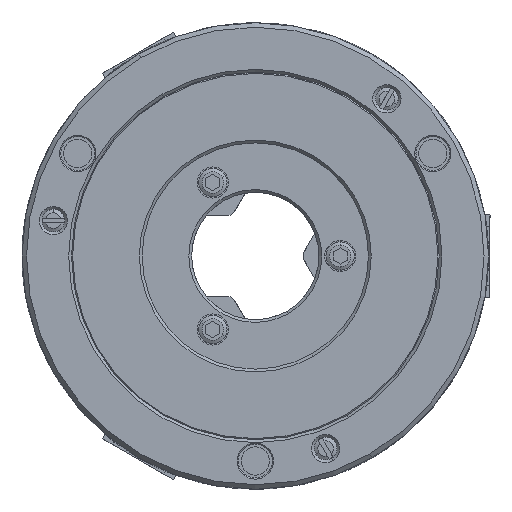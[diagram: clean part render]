
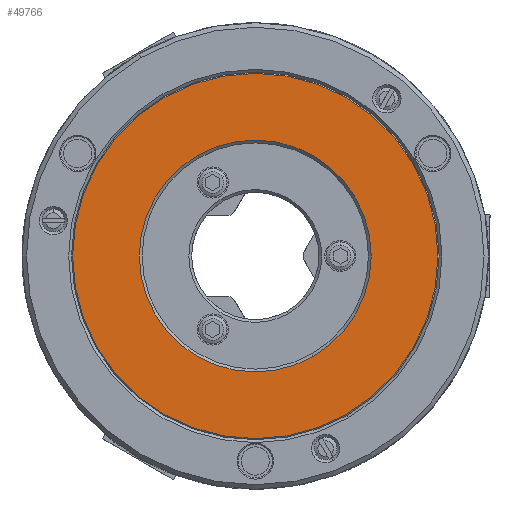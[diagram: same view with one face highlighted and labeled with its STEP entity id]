
A CAD part, left-side view. The second image highlights one B-rep face of the part: STEP entity #49766.
In plain terms, the highlighted planar face has unit normal (-1, 0, 0).
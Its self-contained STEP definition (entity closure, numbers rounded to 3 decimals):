
#350 = EDGE_CURVE ( 'NONE', #38015, #24791, #5590, .T. ) ;
#948 = DIRECTION ( 'NONE',  ( 0., -0.5, -0.866 ) ) ;
#1726 = FACE_OUTER_BOUND ( 'NONE', #30280, .T. ) ;
#3772 = EDGE_CURVE ( 'NONE', #55303, #37430, #26757, .T. ) ;
#5590 = CIRCLE ( 'NONE', #68496, 41. ) ;
#7082 = CARTESIAN_POINT ( 'NONE',  ( -60., 0., 0. ) ) ;
#8221 = AXIS2_PLACEMENT_3D ( 'NONE', #27768, #17062, #28585 ) ;
#10402 = ORIENTED_EDGE ( 'NONE', *, *, #52008, .T. ) ;
#15383 = DIRECTION ( 'NONE',  ( 1., 0., 0. ) ) ;
#17062 = DIRECTION ( 'NONE',  ( 1., 0., 0. ) ) ;
#17712 = EDGE_LOOP ( 'NONE', ( #10402, #34888 ) ) ;
#21952 = DIRECTION ( 'NONE',  ( 0., -0.5, -0.866 ) ) ;
#24791 = VERTEX_POINT ( 'NONE', #55432 ) ;
#26757 = CIRCLE ( 'NONE', #50453, 64.6 ) ;
#27768 = CARTESIAN_POINT ( 'NONE',  ( -60., 0., 0. ) ) ;
#27899 = DIRECTION ( 'NONE',  ( 1., 0., 0. ) ) ;
#28585 = DIRECTION ( 'NONE',  ( 0., -0.5, -0.866 ) ) ;
#30280 = EDGE_LOOP ( 'NONE', ( #57611, #71229 ) ) ;
#30392 = AXIS2_PLACEMENT_3D ( 'NONE', #59582, #73112, #41936 ) ;
#32147 = DIRECTION ( 'NONE',  ( 1., 0., 0. ) ) ;
#32208 = CIRCLE ( 'NONE', #46734, 64.6 ) ;
#34448 = DIRECTION ( 'NONE',  ( 0., -0.5, -0.866 ) ) ;
#34888 = ORIENTED_EDGE ( 'NONE', *, *, #350, .T. ) ;
#36088 = CARTESIAN_POINT ( 'NONE',  ( -60., 0., 0. ) ) ;
#37430 = VERTEX_POINT ( 'NONE', #59852 ) ;
#38015 = VERTEX_POINT ( 'NONE', #73803 ) ;
#40034 = CARTESIAN_POINT ( 'NONE',  ( -60., 0., 0. ) ) ;
#41936 = DIRECTION ( 'NONE',  ( 0., -0.5, -0.866 ) ) ;
#43661 = CIRCLE ( 'NONE', #8221, 41. ) ;
#46734 = AXIS2_PLACEMENT_3D ( 'NONE', #40034, #15383, #21952 ) ;
#49766 = ADVANCED_FACE ( 'NONE', ( #1726, #51822 ), #78048, .F. ) ;
#50453 = AXIS2_PLACEMENT_3D ( 'NONE', #36088, #27899, #34448 ) ;
#51822 = FACE_BOUND ( 'NONE', #17712, .T. ) ;
#52008 = EDGE_CURVE ( 'NONE', #24791, #38015, #43661, .T. ) ;
#55303 = VERTEX_POINT ( 'NONE', #72368 ) ;
#55432 = CARTESIAN_POINT ( 'NONE',  ( -60., 20.5, 35.507 ) ) ;
#57476 = EDGE_CURVE ( 'NONE', #37430, #55303, #32208, .T. ) ;
#57611 = ORIENTED_EDGE ( 'NONE', *, *, #3772, .F. ) ;
#59582 = CARTESIAN_POINT ( 'NONE',  ( -60., 40., 0. ) ) ;
#59852 = CARTESIAN_POINT ( 'NONE',  ( -60., 32.3, 55.945 ) ) ;
#68496 = AXIS2_PLACEMENT_3D ( 'NONE', #7082, #32147, #948 ) ;
#71229 = ORIENTED_EDGE ( 'NONE', *, *, #57476, .F. ) ;
#72368 = CARTESIAN_POINT ( 'NONE',  ( -60., -32.3, -55.945 ) ) ;
#73112 = DIRECTION ( 'NONE',  ( 1., 0., 0. ) ) ;
#73803 = CARTESIAN_POINT ( 'NONE',  ( -60., -20.5, -35.507 ) ) ;
#78048 = PLANE ( 'NONE',  #30392 ) ;
